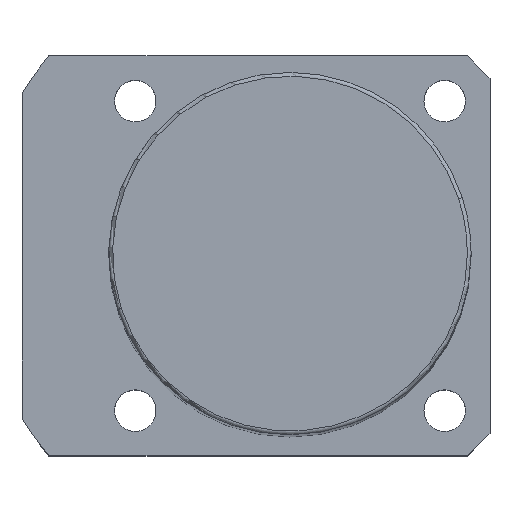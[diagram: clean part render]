
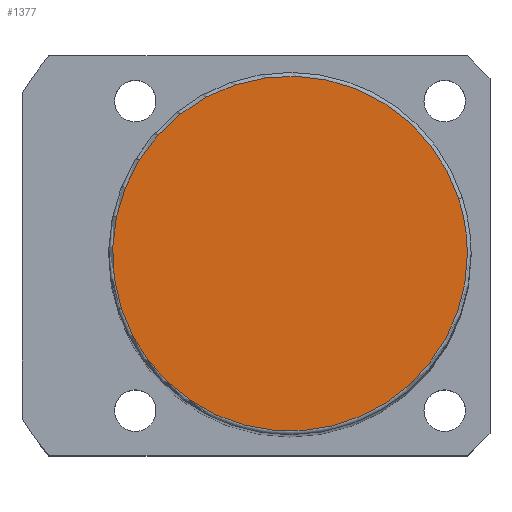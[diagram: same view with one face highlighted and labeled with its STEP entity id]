
A CAD part, top view. The second image highlights one B-rep face of the part: STEP entity #1377.
In plain terms, the highlighted planar face has unit normal (0, 0, 1).
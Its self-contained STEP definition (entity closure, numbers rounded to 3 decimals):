
#1310=CARTESIAN_POINT('',(22.35,7.262,184.0));
#1311=VERTEX_POINT('',#1310);
#1329=CARTESIAN_POINT('',(-22.35,-7.262,184.0));
#1330=VERTEX_POINT('',#1329);
#1338=CARTESIAN_POINT('',(0.0,0.0,184.0));
#1339=DIRECTION('',(0.0,0.0,1.0));
#1340=DIRECTION('',(1.0,0.0,0.0));
#1341=AXIS2_PLACEMENT_3D('',#1338,#1339,#1340);
#1342=CIRCLE('',#1341,23.5);
#1343=EDGE_CURVE('no 3359',#1311,#1330,#1342,.T.);
#1353=CARTESIAN_POINT('',(23.5,0.0,184.0));
#1354=VERTEX_POINT('',#1353);
#1355=CARTESIAN_POINT('',(0.0,0.0,184.0));
#1356=DIRECTION('',(0.0,0.0,1.0));
#1357=DIRECTION('',(1.0,0.0,0.0));
#1358=AXIS2_PLACEMENT_3D('',#1355,#1356,#1357);
#1359=CIRCLE('',#1358,23.5);
#1360=EDGE_CURVE('no 3368',#1354,#1311,#1359,.T.);
#1361=ORIENTED_EDGE('',*,*,#1360,.T.);
#1362=ORIENTED_EDGE('',*,*,#1343,.T.);
#1363=CARTESIAN_POINT('',(0.0,0.0,184.0));
#1364=DIRECTION('',(0.0,0.0,1.0));
#1365=DIRECTION('',(1.0,0.0,0.0));
#1366=AXIS2_PLACEMENT_3D('',#1363,#1364,#1365);
#1367=CIRCLE('',#1366,23.5);
#1368=EDGE_CURVE('no 3374',#1330,#1354,#1367,.T.);
#1369=ORIENTED_EDGE('',*,*,#1368,.T.);
#1370=EDGE_LOOP('',(#1361,#1362,#1369));
#1371=FACE_OUTER_BOUND('',#1370,.T.);
#1372=CARTESIAN_POINT('',(0.0,0.0,184.0));
#1373=DIRECTION('',(0.0,0.0,1.0));
#1374=DIRECTION('',(1.0,0.0,0.0));
#1375=AXIS2_PLACEMENT_3D('',#1372,#1373,#1374);
#1376=PLANE('',#1375);
#1377=ADVANCED_FACE('no 3361',(#1371),#1376,.T.);
